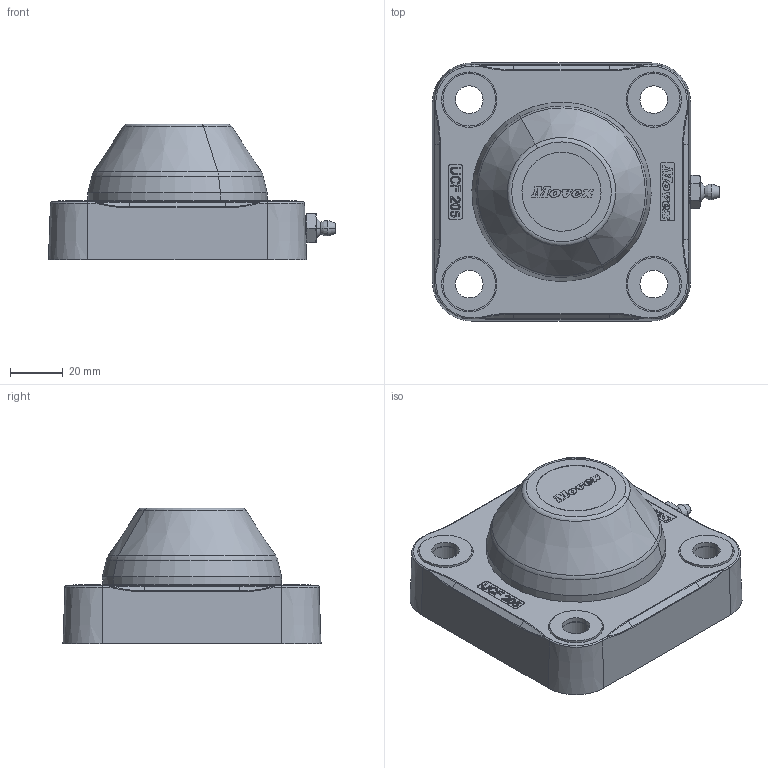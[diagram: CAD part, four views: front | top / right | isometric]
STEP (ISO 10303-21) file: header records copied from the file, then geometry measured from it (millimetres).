
FILE_DESCRIPTION(('CATIA V5 STEP Exchange'),'2;1');
FILE_NAME('X:\CODICI MOVEX\3D per clienti\3D definitivi\Part 800\P83001_01.stp','2016-11-24T12:54:25+00:00',('none'),('none'),'Version 5-6 Release 2012','CATIA V5 STEP AP203','none');
FILE_SCHEMA(('CONFIG_CONTROL_DESIGN'));
Products named in the file (1): P83001_01
Assembly tree (14 placements, depth 2):
  P83001_01
    #58
    #49119
    #53373  x4
    #53760  x4
    #53984
    #55062
    #55185
    #56713
Bounding box: 108.93 x 97.93 x 51.5 mm (x, y, z)
Volume: 201735.9 mm3; surface area: 80773.3 mm2
Topology: 27 solids, 27 shells, 2316 faces, 6481 edges, 4174 vertices
Faces by surface type: plane 1830, cylinder 164, cone 117, torus 82, sphere 76, bspline 25, revolution 22
Entity records: 72079 total; most frequent: CARTESIAN_POINT 14869, ORIENTED_EDGE 12542, DIRECTION 10388, EDGE_CURVE 6271, VECTOR 5478, LINE 5478, VERTEX_POINT 4102, AXIS2_PLACEMENT_3D 2747
